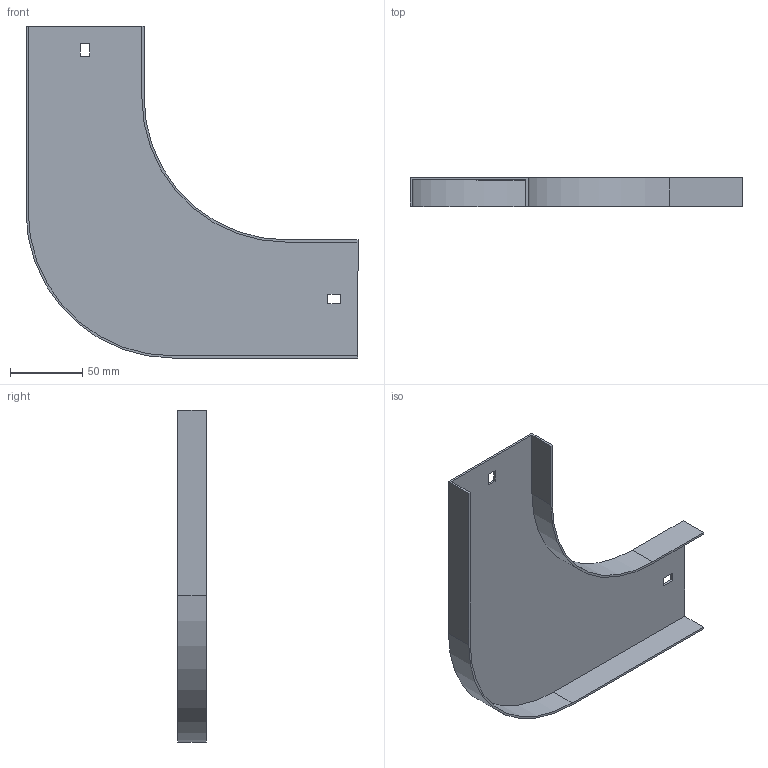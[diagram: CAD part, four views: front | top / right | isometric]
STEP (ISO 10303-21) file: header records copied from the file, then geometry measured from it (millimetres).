
FILE_DESCRIPTION (( 'STEP AP214' ), '1' );
FILE_NAME ('10N1R075.step', '2025-02-21T09:21:28', ( '' ), ( '' ), 'SwSTEP 2.0', 'SolidWorks 2023', '' );
FILE_SCHEMA (( 'AUTOMOTIVE_DESIGN' ));
Length unit declared in the file: millimetre
Products named in the file (1): 10N1R075
Bounding box: 230.5 x 20 x 230.5 mm (x, y, z)
Volume: 64900.8 mm3; surface area: 87992.6 mm2
Topology: 1 solids, 1 shells, 26 faces, 72 edges, 48 vertices
Faces by surface type: plane 22, cylinder 4
Entity records: 855 total; most frequent: CARTESIAN_POINT 147, ORIENTED_EDGE 144, DIRECTION 134, EDGE_CURVE 72, VECTOR 64, LINE 64, VERTEX_POINT 48, AXIS2_PLACEMENT_3D 35
